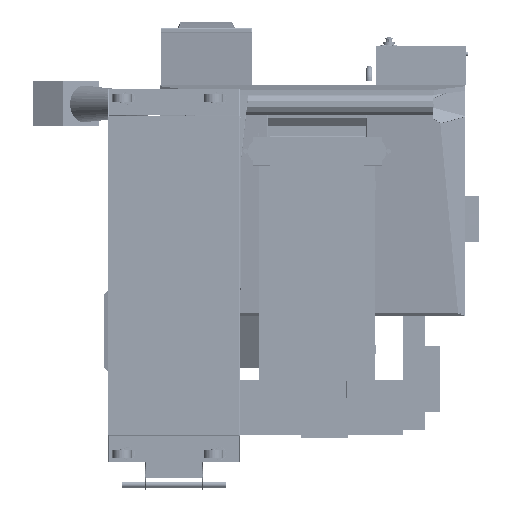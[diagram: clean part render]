
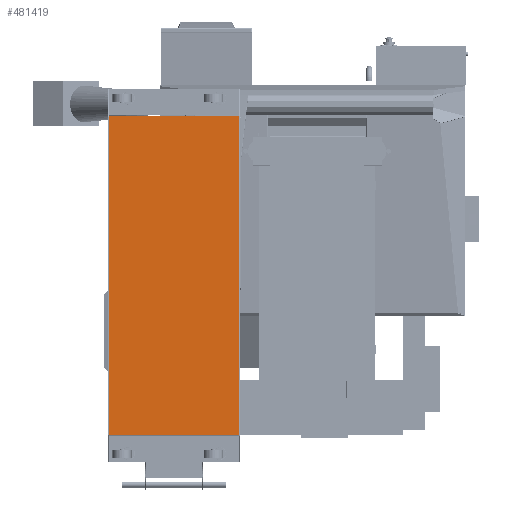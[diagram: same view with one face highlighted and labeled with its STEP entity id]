
A CAD part, front view. The second image highlights one B-rep face of the part: STEP entity #481419.
In plain terms, the highlighted planar face has unit normal (0, -1, 0).
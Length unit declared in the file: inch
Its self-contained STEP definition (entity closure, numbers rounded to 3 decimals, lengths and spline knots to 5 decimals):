
#15679 = VERTEX_POINT ( 'NONE', #176921 ) ;
#18443 = CARTESIAN_POINT ( 'NONE',  ( -43.62206, -20.26605, -24.24337 ) ) ;
#35061 = AXIS2_PLACEMENT_3D ( 'NONE', #270444, #492258, #233093 ) ;
#41195 = PLANE ( 'NONE',  #35061 ) ;
#63232 = VERTEX_POINT ( 'NONE', #426100 ) ;
#64052 = ORIENTED_EDGE ( 'NONE', *, *, #350626, .T. ) ;
#68163 = EDGE_LOOP ( 'NONE', ( #296838, #446988, #371612, #64052 ) ) ;
#128188 = DIRECTION ( 'NONE',  ( 1., 0., 0. ) ) ;
#128916 = DIRECTION ( 'NONE',  ( 0., 0., 1. ) ) ;
#132825 = DIRECTION ( 'NONE',  ( 0., 0., -1. ) ) ;
#176090 = CARTESIAN_POINT ( 'NONE',  ( -43.6122, -20.26605, -24.24337 ) ) ;
#176921 = CARTESIAN_POINT ( 'NONE',  ( -16.3096, -20.26605, -24.24277 ) ) ;
#203746 = LINE ( 'NONE', #470300, #205230 ) ;
#205230 = VECTOR ( 'NONE', #128916, 39.37008 ) ;
#206847 = CARTESIAN_POINT ( 'NONE',  ( -16.30121, -20.26605, 42.55923 ) ) ;
#217260 = CARTESIAN_POINT ( 'NONE',  ( -43.61366, -20.26605, 42.55863 ) ) ;
#225528 = EDGE_CURVE ( 'NONE', #63232, #244594, #401134, .T. ) ;
#233093 = DIRECTION ( 'NONE',  ( -1., 0., 0. ) ) ;
#238428 = VERTEX_POINT ( 'NONE', #176090 ) ;
#244594 = VERTEX_POINT ( 'NONE', #217260 ) ;
#248878 = EDGE_CURVE ( 'NONE', #244594, #238428, #329518, .T. ) ;
#254786 = CARTESIAN_POINT ( 'NONE',  ( -43.61366, -20.26605, 42.56848 ) ) ;
#270444 = CARTESIAN_POINT ( 'NONE',  ( -29.96163, -20.26605, 9.15793 ) ) ;
#272570 = VECTOR ( 'NONE', #132825, 39.37008 ) ;
#272899 = FACE_OUTER_BOUND ( 'NONE', #68163, .T. ) ;
#287309 = VECTOR ( 'NONE', #128188, 39.37008 ) ;
#296838 = ORIENTED_EDGE ( 'NONE', *, *, #225528, .T. ) ;
#324850 = LINE ( 'NONE', #18443, #287309 ) ;
#326300 = DIRECTION ( 'NONE',  ( -1., 0., 0. ) ) ;
#329518 = LINE ( 'NONE', #254786, #272570 ) ;
#339606 = EDGE_CURVE ( 'NONE', #238428, #15679, #324850, .T. ) ;
#350626 = EDGE_CURVE ( 'NONE', #15679, #63232, #203746, .T. ) ;
#350772 = VECTOR ( 'NONE', #326300, 39.37008 ) ;
#371612 = ORIENTED_EDGE ( 'NONE', *, *, #339606, .T. ) ;
#401134 = LINE ( 'NONE', #206847, #350772 ) ;
#426100 = CARTESIAN_POINT ( 'NONE',  ( -16.31106, -20.26605, 42.55923 ) ) ;
#446988 = ORIENTED_EDGE ( 'NONE', *, *, #248878, .T. ) ;
#470300 = CARTESIAN_POINT ( 'NONE',  ( -16.3096, -20.26605, -24.25263 ) ) ;
#481419 = ADVANCED_FACE ( 'NONE', ( #272899 ), #41195, .T. ) ;
#492258 = DIRECTION ( 'NONE',  ( 0., -1., 0. ) ) ;
